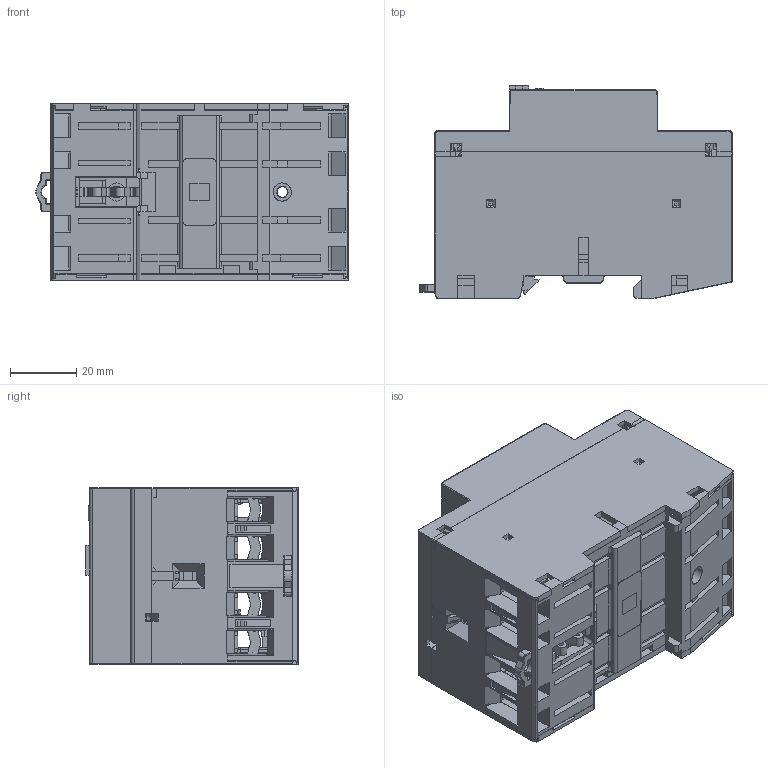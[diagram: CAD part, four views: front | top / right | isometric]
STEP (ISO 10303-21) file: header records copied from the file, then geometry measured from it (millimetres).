
FILE_DESCRIPTION(/* description */ ('Unknown'),/* implementation_level */ '2;1');
FILE_NAME(/* name */ '22_x4',/* time_stamp */ '2020-10-15T11:00:13+02:00',/* author */ ('Unknown'),/* organization */ ('Unknown'),/* preprocessor_version */ 'ST-DEVELOPER v16.7',/* originating_system */ 'DEX',/* authorisation */ $);
FILE_SCHEMA (('AUTOMOTIVE_DESIGN {1 0 10303 214 3 1 1}'));
Products named in the file (5): 22_x4; 22_x4 - 15 ottobre 2020; 22_x4 - 15 ottobre 20200; 22_x4 - 15 ottobre 20201; 22_x4 - 15 ottobre 20202
Assembly tree (4 placements, depth 3):
  22_x4
    22_x4 - 15 ottobre 2020
      22_x4 - 15 ottobre 20200
      22_x4 - 15 ottobre 20201
      22_x4 - 15 ottobre 20202
Bounding box: 94.56 x 64.3 x 53.5 mm (x, y, z)
Surface area: 89279.6 mm2
Topology: 3 solids, 794 shells, 3361 faces, 12593 edges, 9668 vertices
Faces by surface type: plane 2619, cylinder 544, torus 128, cone 53, bspline 13, sphere 4
Full cylindrical faces by diameter (mm): 2.5 x2, 3.2 x2, 3.5 x2, 4.48 x8
Entity records: 150185 total; most frequent: CARTESIAN_POINT 29987, DIRECTION 20277, ORIENTED_EDGE 17958, EDGE_CURVE 12513, LINE 10459, VECTOR 10459, VERTEX_POINT 9637, AXIS2_PLACEMENT_3D 4909
